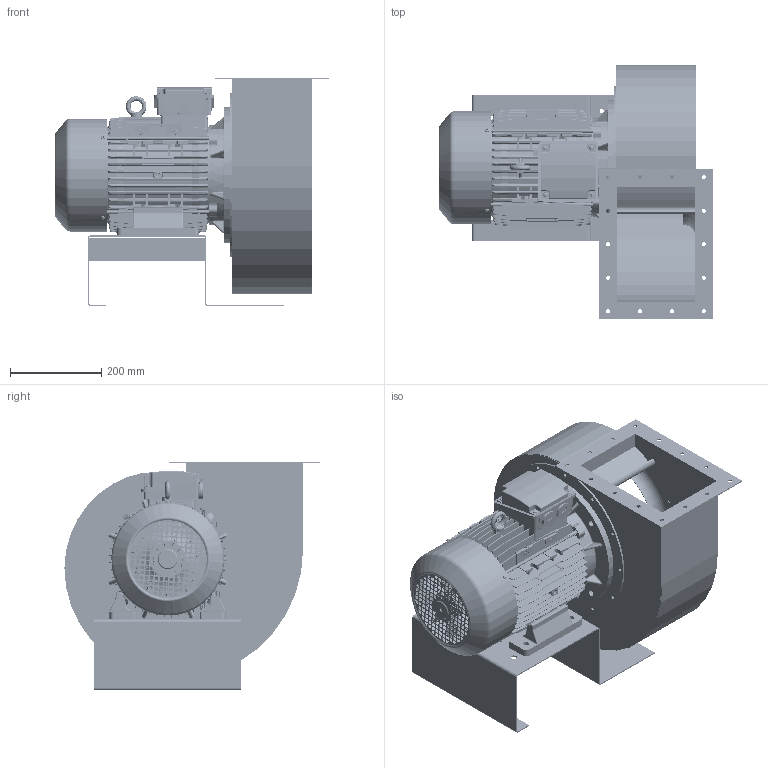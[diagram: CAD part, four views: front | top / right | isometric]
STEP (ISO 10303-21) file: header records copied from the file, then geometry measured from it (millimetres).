
FILE_DESCRIPTION(/* description */ (''),/* implementation_level */ '2;1');
FILE_NAME(/* name */ 'T:\Drawings\Standard Drawings\e-mail\3D14-0435.stp',/* time_stamp */ '2016-03-22T10:39:55+00:00',/* author */ ('mtinkler'),/* organization */ (''),/* preprocessor_version */ 'ST-DEVELOPER v15.6',/* originating_system */ 'Autodesk Inventor 2015',/* authorisation */ '');
FILE_SCHEMA (('AUTOMOTIVE_DESIGN { 1 0 10303 214 3 1 1 }'));
Products named in the file (1): 3D14-0435
Bounding box: 601 x 560.28 x 502 mm (x, y, z)
Volume: 7069359.9 mm3; surface area: 3528575.7 mm2
Topology: 12 solids, 53 shells, 6911 faces, 18314 edges, 11634 vertices
Faces by surface type: plane 3003, cylinder 1529, bspline 1339, cone 551, torus 294, sphere 195
Full cylindrical faces by diameter (mm): 2.3 x4, 3.987 x8, 4.134 x4, 4.567 x6, 5 x12, 5.5 x2, 6 x8, 6.647 x4, 7 x55, 8 x8, 8.376 x2, 8.5 x4, 8.9 x4, 9 x19, 10 x12, 10.106 x1, 12 x4, 12.5 x4, 13 x6, 13.019 x1, 14 x4, 14.5 x4, 27 x2, 32 x2, 37 x4, 37.4 x1, 38 x1, 39.4 x2, 39.8 x1, 40 x7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
Entity records: 262354 total; most frequent: CARTESIAN_POINT 94161, ORIENTED_EDGE 35164, DIRECTION 30421, EDGE_CURVE 17564, VERTEX_POINT 11372, AXIS2_PLACEMENT_3D 10937, LINE 8547, VECTOR 8547
